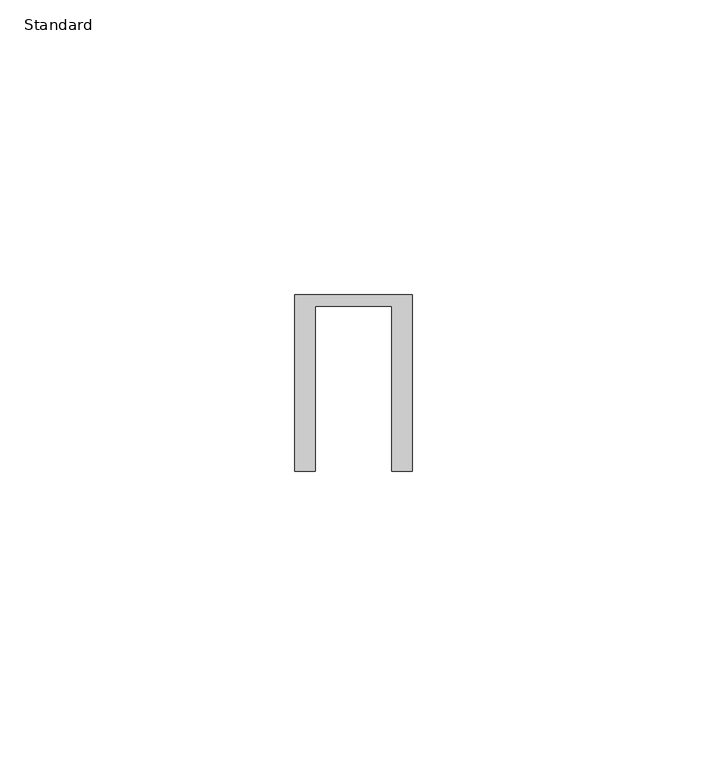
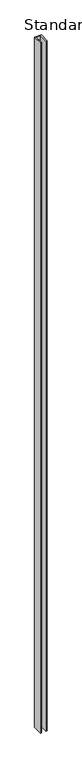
"""IFC4 building model written with IfcOpenShell, lengths in millimetres: furniture geometry, X_Partition-Channel-Duracube-Corner : Standard."""

from ifc_helpers import new_model, si_unit, frame, origin, place, context, project, spatial, polyline, outline, extrude, source, transform, mapped, element, save


def standard_a03910e7(model_context):
    return source(origin(), model_context, "Body", "SweptSolid", [
        extrude(outline(polyline([(21.4503264, 0.0), (21.4503264, 30.0), (41.4503264, 30.0), (41.4503264, 0.0), (37.9503264, 0.0), (37.9503264, 28.0), (24.9503264, 28.0), (24.9503264, 0.0), (21.4503264, 0.0)])), frame((0.0, 0.0, 200.0), z_axis=(0.0, 0.0, 1.0), x_axis=(1.0, 0.0, 0.0)), (0.0, 0.0, 1.0), 2200.0),
    ])


if __name__ == "__main__":
    model = new_model("IFC4")
    model_context = context("Model", 3, world=origin())
    ifc_project = project(units=[si_unit("LENGTHUNIT", "METRE", prefix="MILLI")], contexts=[model_context])
    site = spatial("IfcSite", under=ifc_project)
    building = spatial("IfcBuilding", under=site)
    placement = place(None, origin())
    standard_shape = standard_a03910e7(model_context)
    element("IfcFurniture", 1, ObjectType="X_Partition-Channel-Duracube-Corner : Standard", at=placement, inside=building, context=model_context, shape_type="MappedRepresentation", body=[
        mapped(standard_shape, transform((0.0, 0.0, 0.0), x_axis=(1.0, 0.0, 0.0), y_axis=(0.0, 1.0, 0.0), z_axis=(0.0, 0.0, 1.0))),
    ])
    save(model, "model.ifc")
